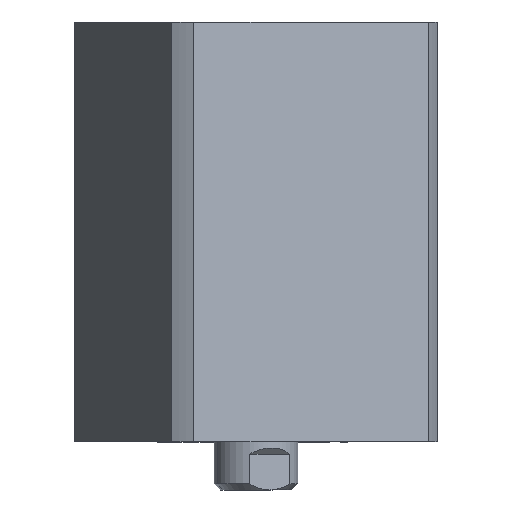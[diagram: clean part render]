
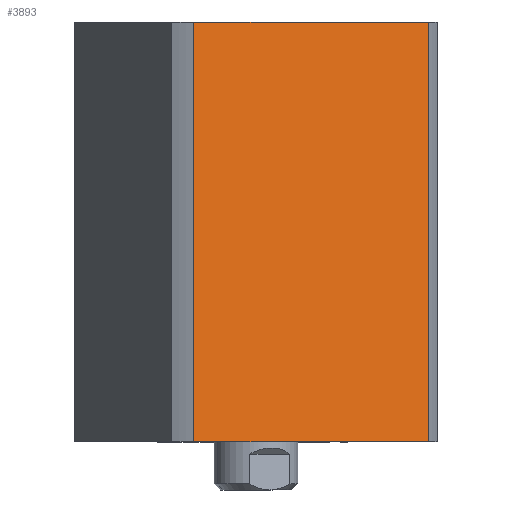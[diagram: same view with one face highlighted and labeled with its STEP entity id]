
A CAD part, left-side view. The second image highlights one B-rep face of the part: STEP entity #3893.
In plain terms, the highlighted planar face has unit normal (-0.924, -0.383, 0) as drawn and (1, 0, 0) by its records, which use the part's own axes.
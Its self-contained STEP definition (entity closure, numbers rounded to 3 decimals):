
#174 = CARTESIAN_POINT ( 'NONE',  ( 24., -21.166, 0. ) ) ;
#647 = AXIS2_PLACEMENT_3D ( 'NONE', #5325, #6616, #2896 ) ;
#775 = LINE ( 'NONE', #4122, #2642 ) ;
#1031 = DIRECTION ( 'NONE',  ( 0., 1., 0. ) ) ;
#1039 = DIRECTION ( 'NONE',  ( 0., 1., 0. ) ) ;
#1081 = ORIENTED_EDGE ( 'NONE', *, *, #2763, .F. ) ;
#1282 = ORIENTED_EDGE ( 'NONE', *, *, #2512, .F. ) ;
#2028 = EDGE_CURVE ( 'NONE', #3454, #3937, #4474, .T. ) ;
#2184 = EDGE_CURVE ( 'NONE', #5270, #3937, #775, .T. ) ;
#2312 = EDGE_LOOP ( 'NONE', ( #1081, #2721, #4383, #1282 ) ) ;
#2512 = EDGE_CURVE ( 'NONE', #4887, #3454, #7615, .T. ) ;
#2554 = FACE_OUTER_BOUND ( 'NONE', #2312, .T. ) ;
#2642 = VECTOR ( 'NONE', #1039, 1000. ) ;
#2690 = CARTESIAN_POINT ( 'NONE',  ( 24., 21.166, -230. ) ) ;
#2721 = ORIENTED_EDGE ( 'NONE', *, *, #2184, .T. ) ;
#2763 = EDGE_CURVE ( 'NONE', #5270, #4887, #5819, .T. ) ;
#2871 = CARTESIAN_POINT ( 'NONE',  ( 24., -21.166, 70. ) ) ;
#2896 = DIRECTION ( 'NONE',  ( 0., -1., 0. ) ) ;
#3278 = DIRECTION ( 'NONE',  ( 0., 0., -1. ) ) ;
#3454 = VERTEX_POINT ( 'NONE', #7149 ) ;
#3893 = ADVANCED_FACE ( 'NONE', ( #2554 ), #4723, .F. ) ;
#3937 = VERTEX_POINT ( 'NONE', #4126 ) ;
#4115 = CARTESIAN_POINT ( 'NONE',  ( 24., 24., 70. ) ) ;
#4122 = CARTESIAN_POINT ( 'NONE',  ( 24., 24., 0. ) ) ;
#4126 = CARTESIAN_POINT ( 'NONE',  ( 24., 21.166, 0. ) ) ;
#4194 = VECTOR ( 'NONE', #6563, 1000. ) ;
#4383 = ORIENTED_EDGE ( 'NONE', *, *, #2028, .F. ) ;
#4474 = LINE ( 'NONE', #2690, #5939 ) ;
#4723 = PLANE ( 'NONE',  #647 ) ;
#4887 = VERTEX_POINT ( 'NONE', #2871 ) ;
#5270 = VERTEX_POINT ( 'NONE', #174 ) ;
#5325 = CARTESIAN_POINT ( 'NONE',  ( 24., 24., 70. ) ) ;
#5819 = LINE ( 'NONE', #7193, #4194 ) ;
#5939 = VECTOR ( 'NONE', #3278, 1000. ) ;
#6563 = DIRECTION ( 'NONE',  ( 0., 0., 1. ) ) ;
#6616 = DIRECTION ( 'NONE',  ( -1., 0., 0. ) ) ;
#7149 = CARTESIAN_POINT ( 'NONE',  ( 24., 21.166, 70. ) ) ;
#7193 = CARTESIAN_POINT ( 'NONE',  ( 24., -21.166, -230. ) ) ;
#7444 = VECTOR ( 'NONE', #1031, 1000. ) ;
#7615 = LINE ( 'NONE', #4115, #7444 ) ;
